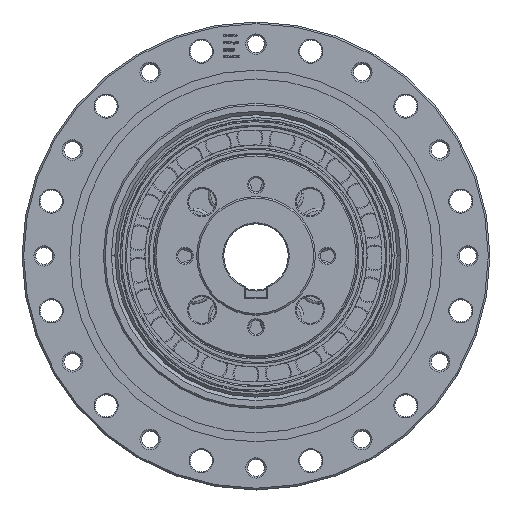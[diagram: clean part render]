
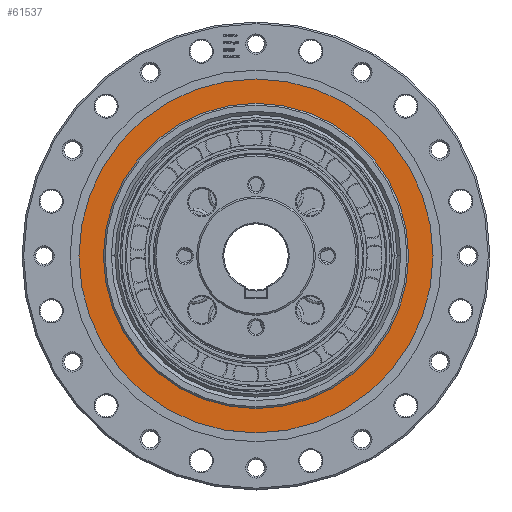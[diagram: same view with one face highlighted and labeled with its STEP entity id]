
A CAD part, top view. The second image highlights one B-rep face of the part: STEP entity #61537.
In plain terms, the highlighted planar face has unit normal (0, 0, 1).
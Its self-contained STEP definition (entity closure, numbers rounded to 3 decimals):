
#918 = FACE_OUTER_BOUND ( 'NONE', #83929, .T. ) ;
#4893 = CIRCLE ( 'NONE', #81277, 52.2 ) ;
#5468 = AXIS2_PLACEMENT_3D ( 'NONE', #27926, #75135, #34985 ) ;
#6224 = DIRECTION ( 'NONE',  ( -1., 0., 0. ) ) ;
#9561 = DIRECTION ( 'NONE',  ( 0., 0., -1. ) ) ;
#16511 = FACE_BOUND ( 'NONE', #56908, .T. ) ;
#17546 = CARTESIAN_POINT ( 'NONE',  ( 0., 0., 45.75 ) ) ;
#21091 = CARTESIAN_POINT ( 'NONE',  ( -52.2, 0., 45.75 ) ) ;
#23795 = VERTEX_POINT ( 'NONE', #42476 ) ;
#24137 = VERTEX_POINT ( 'NONE', #21091 ) ;
#24298 = DIRECTION ( 'NONE',  ( -1., 0., 0. ) ) ;
#25262 = CARTESIAN_POINT ( 'NONE',  ( -45., 0., 45.75 ) ) ;
#27926 = CARTESIAN_POINT ( 'NONE',  ( 31.82, -31.82, 45.75 ) ) ;
#33252 = DIRECTION ( 'NONE',  ( 0., 0., 1. ) ) ;
#34985 = DIRECTION ( 'NONE',  ( -1., 0., 0. ) ) ;
#36448 = VERTEX_POINT ( 'NONE', #25262 ) ;
#36552 = EDGE_CURVE ( 'NONE', #36448, #58848, #45399, .T. ) ;
#39197 = AXIS2_PLACEMENT_3D ( 'NONE', #17546, #64642, #24298 ) ;
#42476 = CARTESIAN_POINT ( 'NONE',  ( 52.2, 0., 45.75 ) ) ;
#45399 = CIRCLE ( 'NONE', #55842, 45. ) ;
#46554 = DIRECTION ( 'NONE',  ( 0., 0., 1. ) ) ;
#49973 = CARTESIAN_POINT ( 'NONE',  ( 0., 0., 45.75 ) ) ;
#51399 = EDGE_CURVE ( 'NONE', #24137, #23795, #57237, .T. ) ;
#52310 = EDGE_CURVE ( 'NONE', #58848, #36448, #74588, .T. ) ;
#53242 = ORIENTED_EDGE ( 'NONE', *, *, #52310, .F. ) ;
#55842 = AXIS2_PLACEMENT_3D ( 'NONE', #86256, #46554, #6224 ) ;
#56725 = DIRECTION ( 'NONE',  ( -1., 0., 0. ) ) ;
#56908 = EDGE_LOOP ( 'NONE', ( #61503, #53242 ) ) ;
#57237 = CIRCLE ( 'NONE', #39197, 52.2 ) ;
#58848 = VERTEX_POINT ( 'NONE', #67670 ) ;
#61503 = ORIENTED_EDGE ( 'NONE', *, *, #36552, .F. ) ;
#61537 = ADVANCED_FACE ( 'n?2975', ( #918, #16511 ), #68530, .F. ) ;
#62653 = EDGE_CURVE ( 'NONE', #23795, #24137, #4893, .T. ) ;
#64642 = DIRECTION ( 'NONE',  ( 0., 0., -1. ) ) ;
#65416 = ORIENTED_EDGE ( 'NONE', *, *, #62653, .F. ) ;
#67670 = CARTESIAN_POINT ( 'NONE',  ( 45., 0., 45.75 ) ) ;
#68530 = PLANE ( 'NONE',  #5468 ) ;
#68681 = ORIENTED_EDGE ( 'NONE', *, *, #51399, .F. ) ;
#70195 = AXIS2_PLACEMENT_3D ( 'NONE', #73424, #33252, #80062 ) ;
#73424 = CARTESIAN_POINT ( 'NONE',  ( 0., 0., 45.75 ) ) ;
#74588 = CIRCLE ( 'NONE', #70195, 45. ) ;
#75135 = DIRECTION ( 'NONE',  ( 0., 0., -1. ) ) ;
#80062 = DIRECTION ( 'NONE',  ( -1., 0., 0. ) ) ;
#81277 = AXIS2_PLACEMENT_3D ( 'NONE', #49973, #9561, #56725 ) ;
#83929 = EDGE_LOOP ( 'NONE', ( #68681, #65416 ) ) ;
#86256 = CARTESIAN_POINT ( 'NONE',  ( 0., 0., 45.75 ) ) ;
